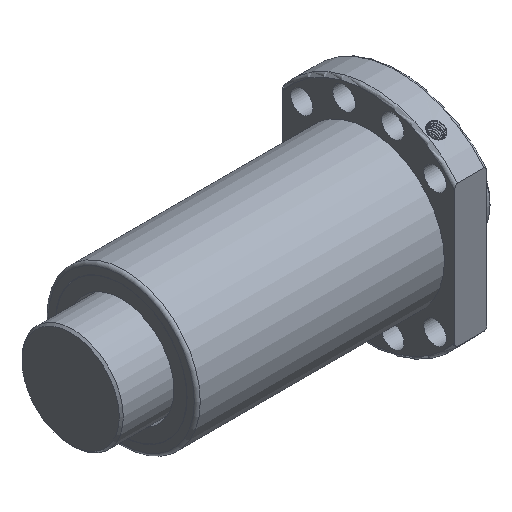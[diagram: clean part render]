
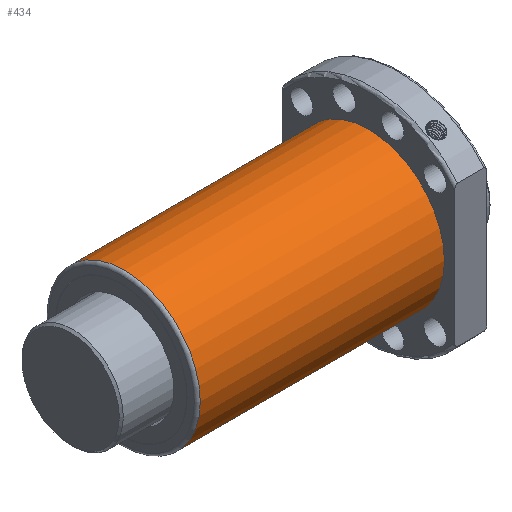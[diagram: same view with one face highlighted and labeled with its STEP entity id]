
A CAD part, isometric view. The second image highlights one B-rep face of the part: STEP entity #434.
In plain terms, the highlighted cylindrical face has radius 37.5 mm (diameter 75 mm), a full revolution.
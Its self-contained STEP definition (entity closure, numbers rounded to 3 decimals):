
#19 = FACE_OUTER_BOUND ( 'NONE', #536, .T. ) ;
#25 = CARTESIAN_POINT ( 'NONE',  ( -156.5, 37.5, 0. ) ) ;
#89 = CARTESIAN_POINT ( 'NONE',  ( -133., 0., 0. ) ) ;
#292 = DIRECTION ( 'NONE',  ( 0., 1., 0. ) ) ;
#310 = FACE_OUTER_BOUND ( 'NONE', #2457, .T. ) ;
#434 = ADVANCED_FACE ( 'NONE', ( #310, #19 ), #1678, .T. ) ;
#536 = EDGE_LOOP ( 'NONE', ( #1098 ) ) ;
#803 = DIRECTION ( 'NONE',  ( 1., 0., 0. ) ) ;
#948 = DIRECTION ( 'NONE',  ( 1., 0., 0. ) ) ;
#1068 = EDGE_CURVE ( 'NONE', #1362, #1362, #2514, .T. ) ;
#1098 = ORIENTED_EDGE ( 'NONE', *, *, #1068, .T. ) ;
#1362 = VERTEX_POINT ( 'NONE', #25 ) ;
#1417 = DIRECTION ( 'NONE',  ( 1., 0., 0. ) ) ;
#1497 = DIRECTION ( 'NONE',  ( 0., 1., 0. ) ) ;
#1678 = CYLINDRICAL_SURFACE ( 'NONE', #2519, 37.5 ) ;
#1690 = CARTESIAN_POINT ( 'NONE',  ( -36., 0., 0. ) ) ;
#1831 = CARTESIAN_POINT ( 'NONE',  ( -36., 37.5, 0. ) ) ;
#1881 = DIRECTION ( 'NONE',  ( 0., 1., 0. ) ) ;
#1937 = EDGE_CURVE ( 'NONE', #2583, #2583, #2260, .T. ) ;
#2181 = ORIENTED_EDGE ( 'NONE', *, *, #1937, .F. ) ;
#2260 = CIRCLE ( 'NONE', #2421, 37.5 ) ;
#2421 = AXIS2_PLACEMENT_3D ( 'NONE', #1690, #1417, #1881 ) ;
#2430 = CARTESIAN_POINT ( 'NONE',  ( -156.5, 0., 0. ) ) ;
#2457 = EDGE_LOOP ( 'NONE', ( #2181 ) ) ;
#2514 = CIRCLE ( 'NONE', #2707, 37.5 ) ;
#2519 = AXIS2_PLACEMENT_3D ( 'NONE', #89, #948, #292 ) ;
#2583 = VERTEX_POINT ( 'NONE', #1831 ) ;
#2707 = AXIS2_PLACEMENT_3D ( 'NONE', #2430, #803, #1497 ) ;
